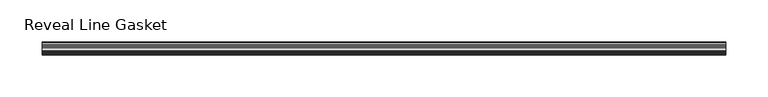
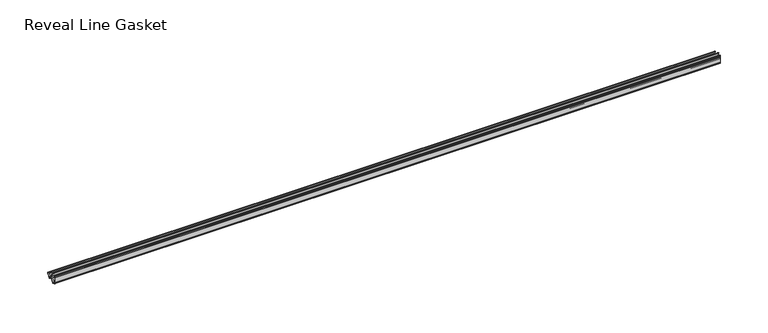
"""IFC4 building model written with IfcOpenShell, lengths in millimetres: proxy geometry, Accessories-Teknion-FHGR-AI_Healthcare-Reveal_Line_Gasket(Horizontal)-R2022 : Reveal Line Gasket."""

from ifc_helpers import new_model, si_unit, point, frame, frame_2d, origin, place, context, project, spatial, polyline, circle_curve, trimmed, segment, composite_curve, outline, extrude, source, transform, mapped, element, save


def reveal_line_gasket_ef3e0e1e(model_context):
    return source(origin(), model_context, "Body", "SweptSolid", [
        extrude(outline(composite_curve([segment(polyline([(-7.6326998, 1603.2), (-7.4091917, 1604.1554927), (-6.8813059, 1605.0884684)]), True, "CONTINUOUS"), segment(trimmed(circle_curve(frame_2d((-6.5243141, 1604.8864793)), 0.4101739), [point((-6.8813059, 1605.0884684))], [point((-6.1246704, 1604.7941347))], False, "CARTESIAN"), True, "CONTINUOUS"), segment(polyline([(-6.1246704, 1604.7941347), (-6.3626997, 1603.0979086), (-6.3626997, 1601.0654527)]), True, "CONTINUOUS"), segment(trimmed(circle_curve(frame_2d((-5.6959605, 1601.4819258)), 0.786124), [point((-6.3626997, 1601.0654527))], [point((-5.0926996, 1600.977875))], True, "CARTESIAN"), True, "CONTINUOUS"), segment(polyline([(-5.0926996, 1600.977875), (-0.7492996, 1600.977875), (-3.7293824, 1606.1395295)]), True, "CONTINUOUS"), segment(trimmed(circle_curve(frame_2d((-3.3132479, 1606.2049761)), 0.4212495), [point((-3.7293824, 1606.1395295))], [point((-3.0485022, 1606.5326358))], False, "CARTESIAN"), True, "CONTINUOUS"), segment(polyline([(-3.0485022, 1606.5326358), (0.5742594, 1600.977875), (4.8262978, 1600.977875), (3.1660374, 1603.8535297)]), True, "CONTINUOUS"), segment(trimmed(circle_curve(frame_2d((3.5978728, 1603.9118855)), 0.4357605), [point((3.1660374, 1603.8535297))], [point((3.864328, 1604.2566881))], False, "CARTESIAN"), True, "CONTINUOUS"), segment(polyline([(3.864328, 1604.2566881), (6.1944059, 1600.977875), (7.6326998, 1600.977875), (7.6326998, 1599.422125), (6.1944059, 1599.422125), (3.864328, 1596.1433119)]), True, "CONTINUOUS"), segment(trimmed(circle_curve(frame_2d((3.5978728, 1596.4881145)), 0.4357605), [point((3.864328, 1596.1433119))], [point((3.1660374, 1596.5464703))], False, "CARTESIAN"), True, "CONTINUOUS"), segment(polyline([(3.1660374, 1596.5464703), (4.8262978, 1599.422125), (0.5742594, 1599.422125), (-3.0485022, 1593.8673642)]), True, "CONTINUOUS"), segment(trimmed(circle_curve(frame_2d((-3.3132479, 1594.1950239)), 0.4212495), [point((-3.0485022, 1593.8673642))], [point((-3.7293824, 1594.2604705))], False, "CARTESIAN"), True, "CONTINUOUS"), segment(polyline([(-3.7293824, 1594.2604705), (-0.7492996, 1599.422125), (-5.0926996, 1599.422125)]), True, "CONTINUOUS"), segment(trimmed(circle_curve(frame_2d((-5.6959605, 1598.9180742)), 0.786124), [point((-5.0926996, 1599.422125))], [point((-6.3626997, 1599.3345473))], True, "CARTESIAN"), True, "CONTINUOUS"), segment(polyline([(-6.3626997, 1599.3345473), (-6.3626997, 1597.3020914), (-6.1246704, 1595.6058653)]), True, "CONTINUOUS"), segment(trimmed(circle_curve(frame_2d((-6.5243141, 1595.5135207)), 0.4101739), [point((-6.1246704, 1595.6058653))], [point((-6.8813059, 1595.3115316))], False, "CARTESIAN"), True, "CONTINUOUS"), segment(polyline([(-6.8813059, 1595.3115316), (-7.4091917, 1596.2445073), (-7.6326998, 1597.2), (-7.6326998, 1603.2)]), True, "CONTINUOUS")], self_intersect=False)), frame((-404.5204, 0.0, 0.0), z_axis=(1.0, 0.0, 0.0), x_axis=(0.0, 1.0, 0.0)), (0.0, 0.0, 1.0), 809.0408),
    ])


if __name__ == "__main__":
    model = new_model("IFC4")
    model_context = context("Model", 3, world=origin())
    ifc_project = project(units=[si_unit("LENGTHUNIT", "METRE", prefix="MILLI")], contexts=[model_context])
    site = spatial("IfcSite", under=ifc_project)
    building = spatial("IfcBuilding", under=site)
    placement = place(None, origin())
    reveal_line_gasket_shape = reveal_line_gasket_ef3e0e1e(model_context)
    element("IfcBuildingElementProxy", 1, Name="Accessories-Teknion-FHGR-AI_Healthcare-Reveal_Line_Gasket(Horizontal)-R2022 : Reveal Line Gasket", ObjectType="Accessories-Teknion-FHGR-AI_Healthcare-Reveal_Line_Gasket(Horizontal)-R2022 : Reveal Line Gasket", at=placement, inside=building, context=model_context, shape_type="MappedRepresentation", body=[
        mapped(reveal_line_gasket_shape, transform((0.0, 0.0, 0.0), x_axis=(1.0, 0.0, 0.0), y_axis=(0.0, 1.0, 0.0), z_axis=(0.0, 0.0, 1.0))),
    ])
    save(model, "model.ifc")
